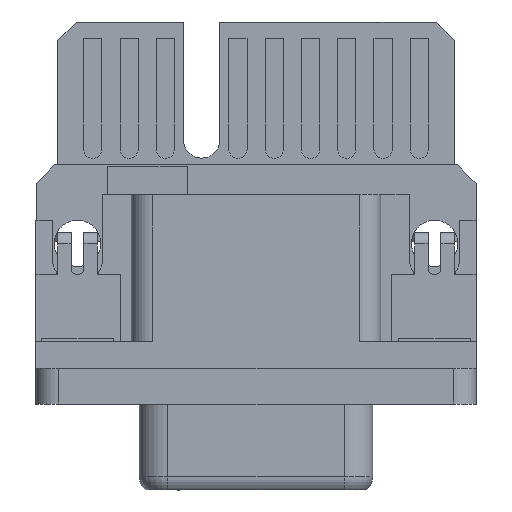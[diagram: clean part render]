
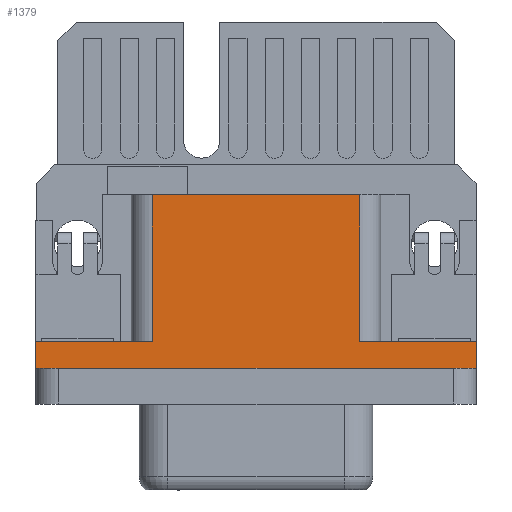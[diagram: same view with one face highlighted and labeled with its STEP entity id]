
A CAD part, top view. The second image highlights one B-rep face of the part: STEP entity #1379.
In plain terms, the highlighted planar face has unit normal (0, 0, 1).
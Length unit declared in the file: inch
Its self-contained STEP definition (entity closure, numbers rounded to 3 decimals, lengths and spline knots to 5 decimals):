
#402 = CARTESIAN_POINT ( 'NONE',  ( -0.6065, 0.40787, 0.20344 ) ) ;
#473 = DIRECTION ( 'NONE',  ( 0., 1., 0. ) ) ;
#511 = CARTESIAN_POINT ( 'NONE',  ( -0.28602, 0.40787, 0.20344 ) ) ;
#590 = FACE_OUTER_BOUND ( 'NONE', #2553, .T. ) ;
#878 = VERTEX_POINT ( 'NONE', #7334 ) ;
#1151 = DIRECTION ( 'NONE',  ( 1., 0., 0. ) ) ;
#1379 = ADVANCED_FACE ( 'NONE', ( #590 ), #7602, .F. ) ;
#1448 = EDGE_CURVE ( 'NONE', #5138, #8829, #8471, .T. ) ;
#1615 = VECTOR ( 'NONE', #1151, 39.37008 ) ;
#1618 = CARTESIAN_POINT ( 'NONE',  ( -0.28602, 0.81299, 0.20344 ) ) ;
#1691 = EDGE_CURVE ( 'NONE', #10015, #7168, #2077, .T. ) ;
#1774 = AXIS2_PLACEMENT_3D ( 'NONE', #6832, #3983, #473 ) ;
#1951 = VECTOR ( 'NONE', #9998, 39.37008 ) ;
#2077 = LINE ( 'NONE', #4775, #11413 ) ;
#2246 = VECTOR ( 'NONE', #6740, 39.37008 ) ;
#2305 = LINE ( 'NONE', #10246, #2246 ) ;
#2553 = EDGE_LOOP ( 'NONE', ( #10275, #9212, #8753, #7820, #5545, #2968, #11120, #4982 ) ) ;
#2856 = LINE ( 'NONE', #7121, #1615 ) ;
#2968 = ORIENTED_EDGE ( 'NONE', *, *, #1448, .F. ) ;
#3159 = DIRECTION ( 'NONE',  ( 0., 1., 0. ) ) ;
#3598 = EDGE_CURVE ( 'NONE', #4566, #7833, #5359, .T. ) ;
#3881 = EDGE_CURVE ( 'NONE', #878, #10807, #2305, .T. ) ;
#3899 = DIRECTION ( 'NONE',  ( 0., -1., 0. ) ) ;
#3983 = DIRECTION ( 'NONE',  ( 0., 0., -1. ) ) ;
#4566 = VERTEX_POINT ( 'NONE', #9383 ) ;
#4775 = CARTESIAN_POINT ( 'NONE',  ( 0.6065, 0.23622, 0.20344 ) ) ;
#4976 = VECTOR ( 'NONE', #7525, 39.37008 ) ;
#4982 = ORIENTED_EDGE ( 'NONE', *, *, #3881, .F. ) ;
#5138 = VERTEX_POINT ( 'NONE', #511 ) ;
#5359 = LINE ( 'NONE', #8911, #9405 ) ;
#5545 = ORIENTED_EDGE ( 'NONE', *, *, #6104, .F. ) ;
#5663 = LINE ( 'NONE', #402, #4976 ) ;
#5682 = CARTESIAN_POINT ( 'NONE',  ( 0., 0.40787, 0.20344 ) ) ;
#5738 = LINE ( 'NONE', #5682, #9789 ) ;
#5938 = VECTOR ( 'NONE', #3159, 39.37008 ) ;
#6104 = EDGE_CURVE ( 'NONE', #8829, #4566, #2856, .T. ) ;
#6553 = CARTESIAN_POINT ( 'NONE',  ( 0.6065, 0.33465, 0.20344 ) ) ;
#6655 = CARTESIAN_POINT ( 'NONE',  ( -0.28602, 0.33465, 0.20344 ) ) ;
#6740 = DIRECTION ( 'NONE',  ( 0., 1., 0. ) ) ;
#6832 = CARTESIAN_POINT ( 'NONE',  ( -0.6065, 0.33465, 0.20344 ) ) ;
#7121 = CARTESIAN_POINT ( 'NONE',  ( -0.6065, 0.81299, 0.20344 ) ) ;
#7168 = VERTEX_POINT ( 'NONE', #6553 ) ;
#7334 = CARTESIAN_POINT ( 'NONE',  ( -0.6065, 0.33465, 0.20344 ) ) ;
#7525 = DIRECTION ( 'NONE',  ( 1., 0., 0. ) ) ;
#7602 = PLANE ( 'NONE',  #1774 ) ;
#7820 = ORIENTED_EDGE ( 'NONE', *, *, #3598, .F. ) ;
#7833 = VERTEX_POINT ( 'NONE', #11065 ) ;
#8022 = CARTESIAN_POINT ( 'NONE',  ( -0.6065, 0.33465, 0.20344 ) ) ;
#8471 = LINE ( 'NONE', #6655, #5938 ) ;
#8657 = EDGE_CURVE ( 'NONE', #7833, #10015, #5663, .T. ) ;
#8714 = CARTESIAN_POINT ( 'NONE',  ( -0.6065, 0.40787, 0.20344 ) ) ;
#8753 = ORIENTED_EDGE ( 'NONE', *, *, #8657, .F. ) ;
#8829 = VERTEX_POINT ( 'NONE', #1618 ) ;
#8855 = CARTESIAN_POINT ( 'NONE',  ( 0.6065, 0.40787, 0.20344 ) ) ;
#8911 = CARTESIAN_POINT ( 'NONE',  ( 0.28602, 0.33465, 0.20344 ) ) ;
#9024 = DIRECTION ( 'NONE',  ( 0., -1., 0. ) ) ;
#9122 = DIRECTION ( 'NONE',  ( 1., 0., 0. ) ) ;
#9212 = ORIENTED_EDGE ( 'NONE', *, *, #1691, .F. ) ;
#9383 = CARTESIAN_POINT ( 'NONE',  ( 0.28602, 0.81299, 0.20344 ) ) ;
#9405 = VECTOR ( 'NONE', #9024, 39.37008 ) ;
#9789 = VECTOR ( 'NONE', #9122, 39.37008 ) ;
#9998 = DIRECTION ( 'NONE',  ( 1., 0., 0. ) ) ;
#10015 = VERTEX_POINT ( 'NONE', #8855 ) ;
#10246 = CARTESIAN_POINT ( 'NONE',  ( -0.6065, 0.23622, 0.20344 ) ) ;
#10275 = ORIENTED_EDGE ( 'NONE', *, *, #10983, .T. ) ;
#10807 = VERTEX_POINT ( 'NONE', #8714 ) ;
#10873 = LINE ( 'NONE', #8022, #1951 ) ;
#10983 = EDGE_CURVE ( 'NONE', #878, #7168, #10873, .T. ) ;
#11065 = CARTESIAN_POINT ( 'NONE',  ( 0.28602, 0.40787, 0.20344 ) ) ;
#11120 = ORIENTED_EDGE ( 'NONE', *, *, #11129, .F. ) ;
#11129 = EDGE_CURVE ( 'NONE', #10807, #5138, #5738, .T. ) ;
#11413 = VECTOR ( 'NONE', #3899, 39.37008 ) ;
